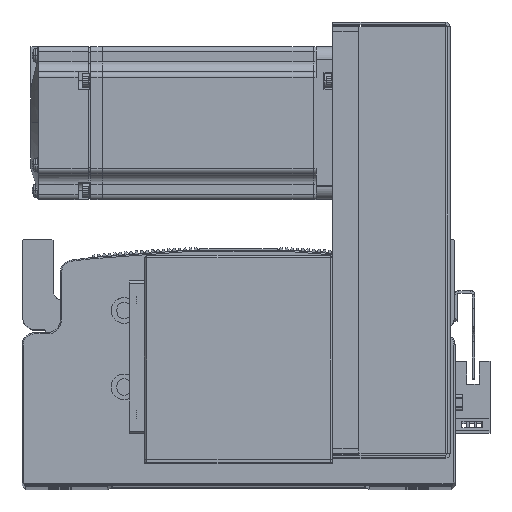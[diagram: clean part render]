
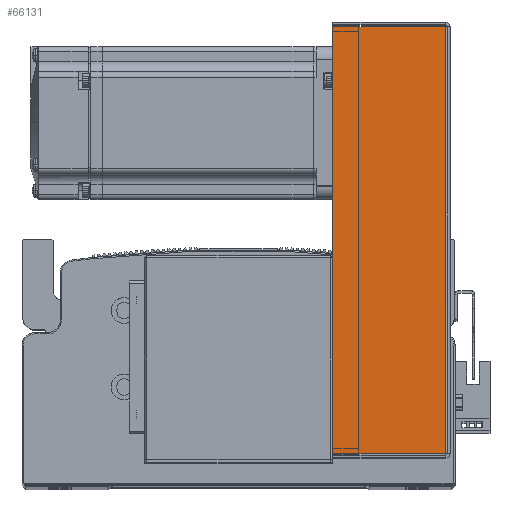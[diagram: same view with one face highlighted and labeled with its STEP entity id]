
A CAD part, top view. The second image highlights one B-rep face of the part: STEP entity #66131.
In plain terms, the highlighted planar face has unit normal (0, 0, 1).
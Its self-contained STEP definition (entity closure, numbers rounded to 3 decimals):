
#6355 = LINE ( 'NONE', #65459, #6393 ) ;
#6356 = LINE ( 'NONE', #65432, #6398 ) ;
#6364 = LINE ( 'NONE', #65452, #6404 ) ;
#6374 = LINE ( 'NONE', #65384, #6375 ) ;
#6375 = VECTOR ( 'NONE', #65396, 1000. ) ;
#6393 = VECTOR ( 'NONE', #65442, 1000. ) ;
#6398 = VECTOR ( 'NONE', #65463, 1000. ) ;
#6404 = VECTOR ( 'NONE', #65455, 1000. ) ;
#7594 = AXIS2_PLACEMENT_3D ( 'NONE', #12859, #12838, #12906 ) ;
#12838 = DIRECTION ( 'NONE',  ( 0., 0., -1. ) ) ;
#12855 = PLANE ( 'NONE',  #7594 ) ;
#12859 = CARTESIAN_POINT ( 'NONE',  ( 0., 0., 40.5 ) ) ;
#12906 = DIRECTION ( 'NONE',  ( -1., 0., 0. ) ) ;
#17919 = FACE_OUTER_BOUND ( 'NONE', #41929, .T. ) ;
#21189 = CARTESIAN_POINT ( 'NONE',  ( -83.793, 45., 40.5 ) ) ;
#21206 = CARTESIAN_POINT ( 'NONE',  ( 83.793, 0.737, 40.5 ) ) ;
#23591 = CARTESIAN_POINT ( 'NONE',  ( -83.793, 0.737, 40.5 ) ) ;
#23620 = CARTESIAN_POINT ( 'NONE',  ( 83.793, 45., 40.5 ) ) ;
#26852 = EDGE_CURVE ( 'NONE', #53841, #53593, #6374, .T. ) ;
#26863 = EDGE_CURVE ( 'NONE', #53625, #53829, #6355, .T. ) ;
#26875 = EDGE_CURVE ( 'NONE', #53593, #53829, #6356, .T. ) ;
#26877 = EDGE_CURVE ( 'NONE', #53841, #53625, #6364, .T. ) ;
#41929 = EDGE_LOOP ( 'NONE', ( #53999, #54031, #54053, #54011 ) ) ;
#53593 = VERTEX_POINT ( 'NONE', #23620 ) ;
#53625 = VERTEX_POINT ( 'NONE', #23591 ) ;
#53829 = VERTEX_POINT ( 'NONE', #21189 ) ;
#53841 = VERTEX_POINT ( 'NONE', #21206 ) ;
#53999 = ORIENTED_EDGE ( 'NONE', *, *, #26877, .F. ) ;
#54011 = ORIENTED_EDGE ( 'NONE', *, *, #26863, .F. ) ;
#54031 = ORIENTED_EDGE ( 'NONE', *, *, #26852, .T. ) ;
#54053 = ORIENTED_EDGE ( 'NONE', *, *, #26875, .T. ) ;
#65384 = CARTESIAN_POINT ( 'NONE',  ( 83.793, 0., 40.5 ) ) ;
#65396 = DIRECTION ( 'NONE',  ( 0., 1., 0. ) ) ;
#65432 = CARTESIAN_POINT ( 'NONE',  ( -84.5, 45., 40.5 ) ) ;
#65442 = DIRECTION ( 'NONE',  ( 0., 1., 0. ) ) ;
#65452 = CARTESIAN_POINT ( 'NONE',  ( 0., 0.737, 40.5 ) ) ;
#65455 = DIRECTION ( 'NONE',  ( -1., 0., 0. ) ) ;
#65459 = CARTESIAN_POINT ( 'NONE',  ( -83.793, 0., 40.5 ) ) ;
#65463 = DIRECTION ( 'NONE',  ( -1., 0., 0. ) ) ;
#66131 = ADVANCED_FACE ( 'NONE', ( #17919 ), #12855, .F. ) ;
